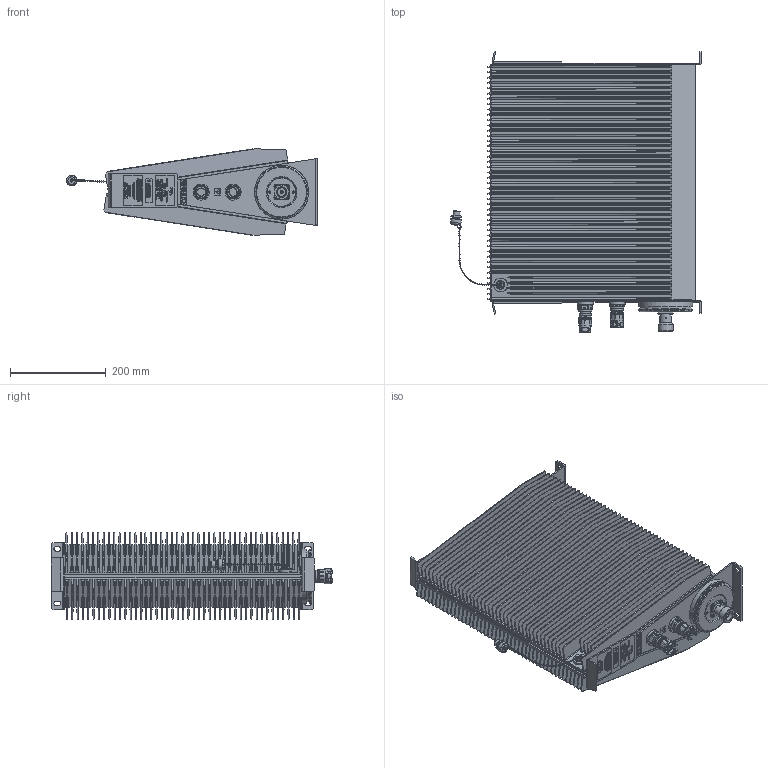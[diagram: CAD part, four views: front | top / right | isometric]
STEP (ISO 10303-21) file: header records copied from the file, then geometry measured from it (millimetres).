
FILE_DESCRIPTION(/* description */ (''),/* implementation_level */ '2;1');
FILE_NAME(/* name */ '8890-300_Rev K.2',/* time_stamp */ '2017-09-22T12:22:32-04:00',/* author */ ('John Winter'),/* organization */ ('Bird'),/* preprocessor_version */ 'ST-DEVELOPER v16.7',/* originating_system */ 'DEX',/* authorisation */ $);
FILE_SCHEMA (('AUTOMOTIVE_DESIGN {1 0 10303 214 3 1 1}'));
Products named in the file (1): 8890-300_Rev W_monolithic
Bounding box: 524.89 x 589.43 x 180.01 mm (x, y, z)
Volume: 19149595.6 mm3; surface area: 2927160.7 mm2
Topology: 3 solids, 16 shells, 8515 faces, 23599 edges, 15709 vertices
Faces by surface type: plane 7119, bspline 713, cylinder 568, sphere 52, cone 40, torus 23
Full cylindrical faces by diameter (mm): 0.76 x1, 0.823 x1, 1.037 x1, 1.062 x1, 1.486 x8, 1.524 x1, 2.616 x8, 3.81 x6, 4.166 x12, 4.572 x4, 4.775 x2, 4.851 x1, 5.563 x1, 6.629 x1, 12.903 x1, 14.275 x1, 14.681 x1, 15.875 x1, 17.653 x1, 17.882 x2, 18.034 x1, 20.302 x1, 20.447 x1, 20.815 x1, 20.904 x6, 21.826 x1, 22.352 x2, 22.691 x1, 22.987 x2, 23.673 x1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
Entity records: 360075 total; most frequent: CARTESIAN_POINT 95193, ORIENTED_EDGE 46302, DIRECTION 35167, EDGE_CURVE 23151, LINE 16951, VECTOR 16951, VERTEX_POINT 15542, FACE_BOUND 9465
